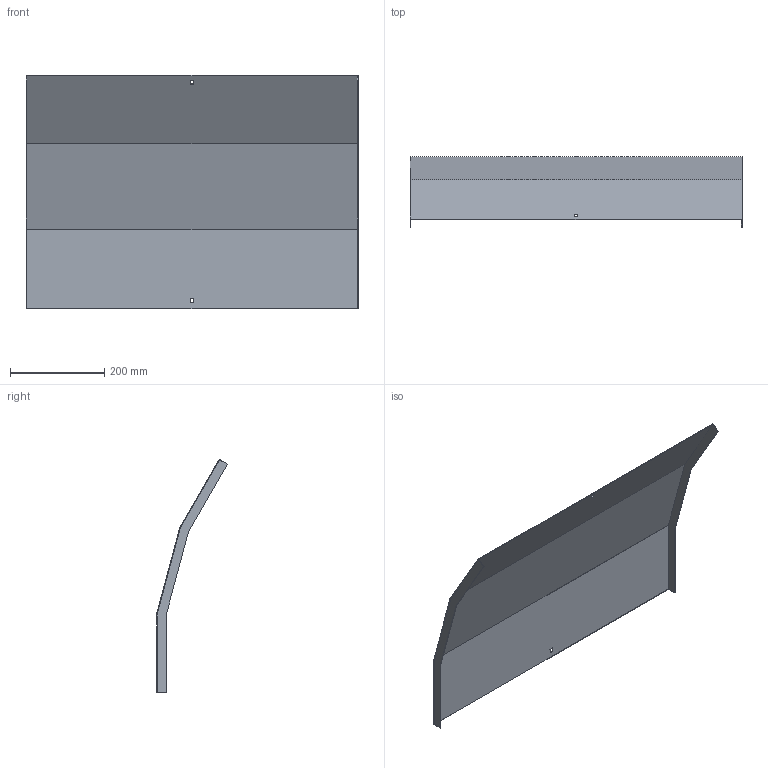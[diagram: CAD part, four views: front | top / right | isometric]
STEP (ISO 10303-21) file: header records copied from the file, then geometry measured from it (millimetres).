
FILE_DESCRIPTION (( 'STEP AP214' ), '1' );
FILE_NAME ('A2_35N3J700.step', '2025-02-21T10:31:31', ( '' ), ( '' ), 'SwSTEP 2.0', 'SolidWorks 2023', '' );
FILE_SCHEMA (( 'AUTOMOTIVE_DESIGN' ));
Length unit declared in the file: millimetre
Products named in the file (1): A2_35N3J700
Bounding box: 703 x 149.62 x 493.76 mm (x, y, z)
Volume: 579104.6 mm3; surface area: 775989.6 mm2
Topology: 1 solids, 1 shells, 26 faces, 72 edges, 48 vertices
Faces by surface type: plane 26
Entity records: 847 total; most frequent: CARTESIAN_POINT 147, ORIENTED_EDGE 144, DIRECTION 126, LINE 72, VECTOR 72, EDGE_CURVE 72, VERTEX_POINT 48, EDGE_LOOP 30
